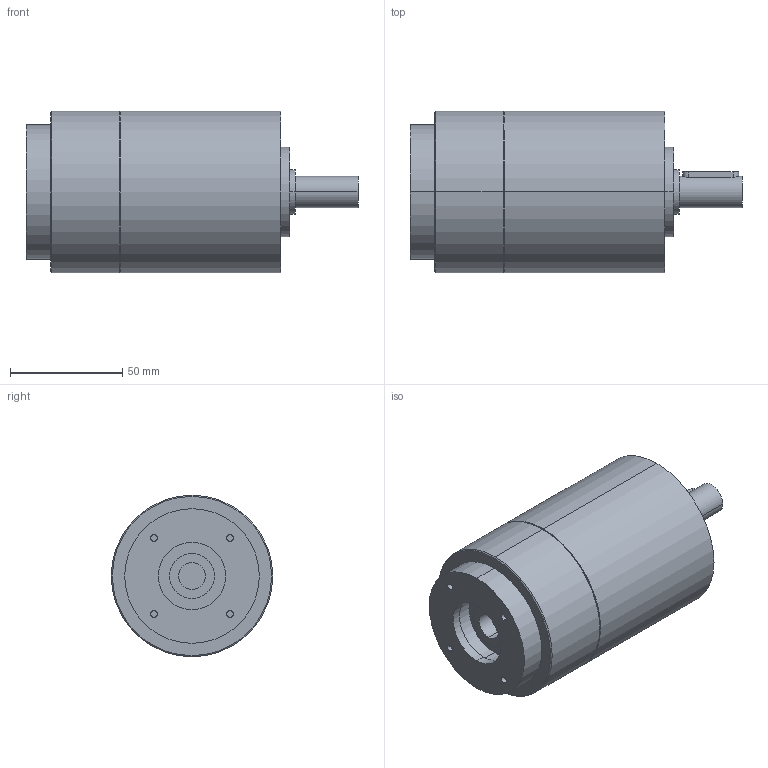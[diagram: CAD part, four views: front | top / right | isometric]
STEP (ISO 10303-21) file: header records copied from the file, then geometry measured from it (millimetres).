
FILE_DESCRIPTION(('CoCreate Modeling STEP Export'),'2;1');
FILE_NAME('GPT75_ig-9-12-16-20-25-28-35-40-50-70-100_14_B14T_12_P29.stp','2014-08-27T13:16:39',(''),(''),'CoCreate Modeling STEP processor for AP214 (Solid Model)','CoCreate Modeling 16.00C 25-Feb-2009 (C) Parametric Technology GmbH','');
FILE_SCHEMA(('AUTOMOTIVE_DESIGN { 1 0 10303 214 1 1 1 1 }'));
Length unit declared in the file: millimetre
Products named in the file (2): GPT75_ig-9-12-16-20-25-28-35-40-50-70-100_14_B14T_12_P29
Assembly tree (1 placements, depth 2):
  GPT75_ig-9-12-16-20-25-28-35-40-50-70-100_14_B14T_12_P29
    GPT75_ig-9-12-16-20-25-28-35-40-50-70-100_14_B14T_12_P29
Bounding box: 148 x 72 x 72 mm (x, y, z)
Volume: 446444.8 mm3; surface area: 39448.3 mm2
Topology: 1 solids, 1 shells, 67 faces, 149 edges, 102 vertices
Faces by surface type: cylinder 40, plane 23, cone 4
Entity records: 1948 total; most frequent: CARTESIAN_POINT 625, ORIENTED_EDGE 298, DIRECTION 220, EDGE_CURVE 149, VERTEX_POINT 102, AXIS2_PLACEMENT_3D 85, EDGE_LOOP 85, FACE_OUTER_BOUND 67
